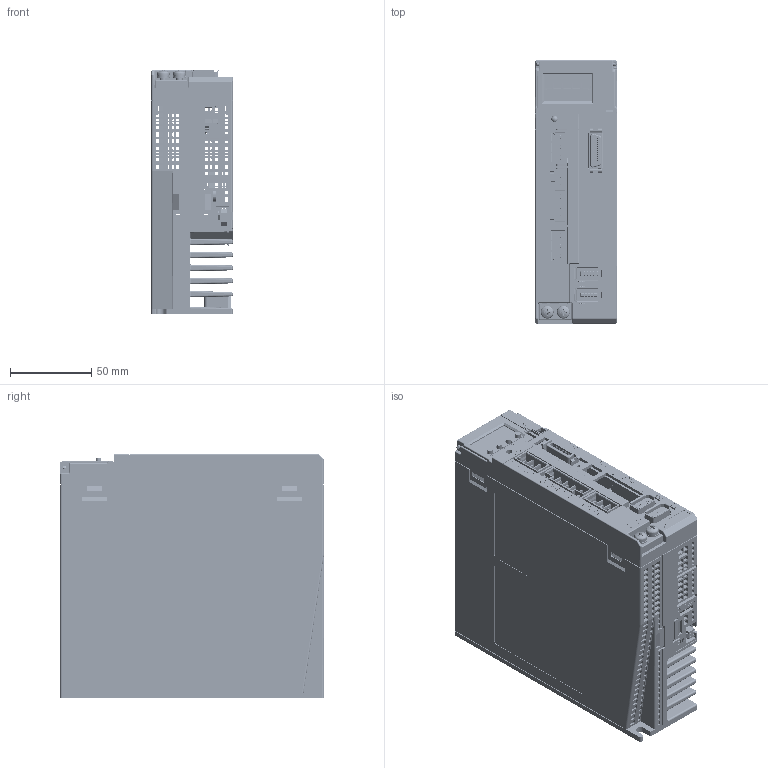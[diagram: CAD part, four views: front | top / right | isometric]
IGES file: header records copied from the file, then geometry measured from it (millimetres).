
Global section: file name: 7HNo Iges File Name specified; native system: AutoDesk Inventor R12.0; preprocessor: AutoDesk Inventor Iges Exporter R12.0; author: No Author specified; organization: No Organization specified; date: 20161022.110731; units: millimetre
Bounding box: 50 x 162.01 x 150.3 mm (x, y, z)
Surface area: 301584.9 mm2
Topology: 5 solids, 9 shells, 10893 faces, 30928 edges, 20294 vertices
Faces by surface type: plane 8599, revolution 1015, cylinder 636, bspline 483, sphere 84, torus 42, cone 34
Full cylindrical faces by diameter (mm): 0.6 x4, 1.5 x16, 2 x1, 3.4 x4, 3.621 x2, 4 x6, 4.33 x1, 4.5 x1, 5 x2, 8 x2, 8.3 x1
